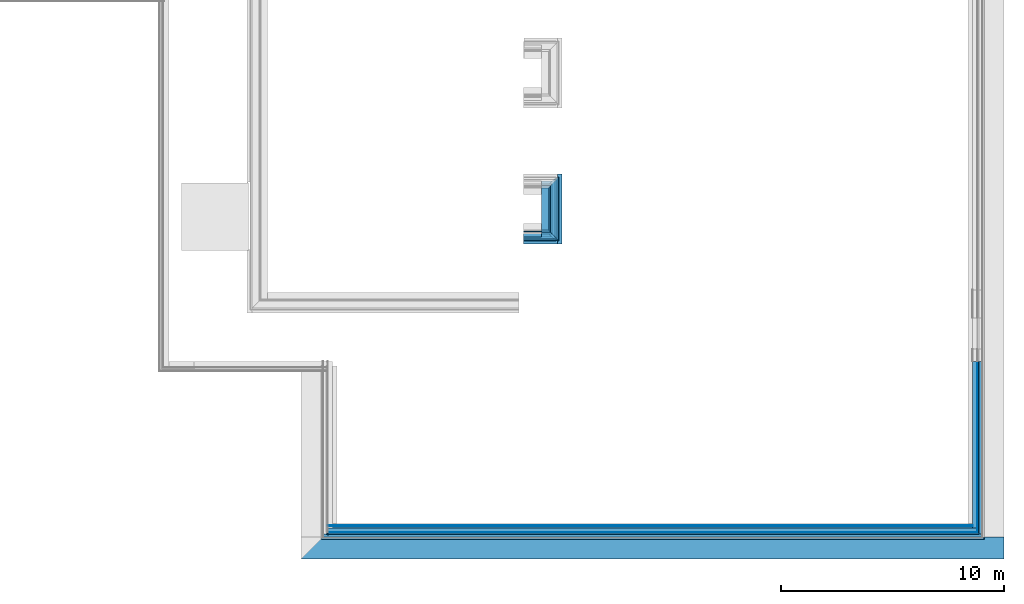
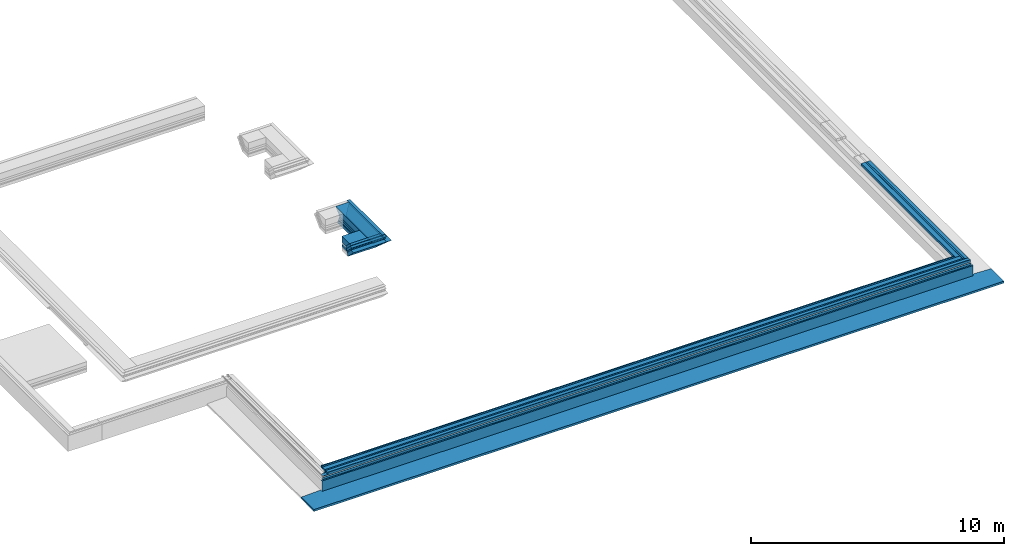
# One storey, part 9 of 17: 31 building element parts, 5 elements without a shape of their own.
"""IFC2X3 building model written with IfcOpenShell, lengths in millimetres."""

from ifc_helpers import new_model, entity, si_unit, converted_unit, derived_unit, money_unit, direction, frame, origin_with_axes, place, context, subcontext, project, spatial, faceted_brep, material, type_object, element, aggregate, save


model = new_model("IFC2X3")

# Units and contexts
model_context = context("Model", 3, precision=0.01, world=origin_with_axes(), true_north=direction((0.0, 1.0)))
body_context = subcontext(model_context, "Body", "Model", "MODEL_VIEW")
ifc_project = project(units=[si_unit("LENGTHUNIT", "METRE", prefix="MILLI"), si_unit("AREAUNIT", "SQUARE_METRE"), si_unit("VOLUMEUNIT", "CUBIC_METRE"), converted_unit("PLANEANGLEUNIT", "DEGREE", entity("IfcPlaneAngleMeasure", 0.0174532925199), si_unit("PLANEANGLEUNIT", "RADIAN"), dimensions=[0, 0, 0, 0, 0, 0, 0]), money_unit("EUR"), converted_unit("TIMEUNIT", "Year", entity("IfcTimeMeasure", 31556926.0), si_unit("TIMEUNIT", "SECOND"), dimensions=[0, 0, 1, 0, 0, 0, 0]), si_unit("MASSUNIT", "GRAM", prefix="KILO"), si_unit("THERMODYNAMICTEMPERATUREUNIT", "DEGREE_CELSIUS"), si_unit("LUMINOUSINTENSITYUNIT", "LUMEN"), si_unit("ENERGYUNIT", "JOULE", prefix="MEGA"), derived_unit("THERMALCONDUCTANCEUNIT", [(si_unit("POWERUNIT", "WATT"), 1), (si_unit("LENGTHUNIT", "METRE"), -1), (si_unit("THERMODYNAMICTEMPERATUREUNIT", "KELVIN"), -1)]), derived_unit("SPECIFICHEATCAPACITYUNIT", [(si_unit("ENERGYUNIT", "JOULE"), 1), (si_unit("MASSUNIT", "GRAM", prefix="KILO"), -1), (si_unit("THERMODYNAMICTEMPERATUREUNIT", "KELVIN"), -1)]), derived_unit("MASSDENSITYUNIT", [(si_unit("MASSUNIT", "GRAM", prefix="KILO"), 1), (si_unit("VOLUMEUNIT", "CUBIC_METRE"), -1)])], contexts=[model_context])

# Site, building, storey
site_placement = place(None, origin_with_axes())
site = spatial("IfcSite", under=ifc_project, at=site_placement, Name="Kolde pst 67a", CompositionType="ELEMENT")
building_placement = place(site_placement, origin_with_axes())
building = spatial("IfcBuilding", under=site, at=building_placement, Name="Riigigümnaasium", CompositionType="ELEMENT")
storey_placement = place(building_placement, frame((0.0, 0.0, -1500.0), z_axis=(0.0, 0.0, 1.0), x_axis=(1.0, 0.0, 0.0)))
storey = spatial("IfcBuildingStorey", under=building, at=storey_placement, Name="Vundament", CompositionType="ELEMENT", Elevation=-1500.0)

# Wall, building element parts
wall_type_1 = type_object("IfcWallType", Name="Lintvundament 1602 x 765", PredefinedType="NOTDEFINED")
wall_1_placement = place(storey_placement, frame((55370.0096858, 40.0, 1479.99999851), z_axis=(0.0, 0.0, 1.0), x_axis=(1.0, 0.0, 0.0)))
wall_1 = element("IfcWall", 1, at=wall_1_placement, inside=storey, type_object=wall_type_1, Name="Vundament")
ifc_material_1 = material(Name="_ALUSKATE - drenaaži- ja kaitsematt geotekstiiliga soojustuse kaitseks, Interplast Iso-Drain 8 Geo või samaväärne")
building_element_part_1_placement = place(wall_1_placement, origin_with_axes())
building_element_part_1 = element("IfcBuildingElementPart", 2, at=building_element_part_1_placement, material=ifc_material_1, Name="_ALUSKATE - drenaaži- ja kaitsematt geotekstiiliga soojustuse kaitseks, Interplast Iso-Drain 8 Geo või samaväärne", context=body_context, shape_type="Brep", body=[
    faceted_brep([(29314.9896366, -234.999993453, -29.9999875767), (29314.9896366, -234.999993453, -137.03058496), (29383.0470942, -234.999993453, -137.03058496), (29383.0470942, -234.999993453, -146.999992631), (-313.056572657, -234.999993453, -146.999992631), (-313.056572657, -234.999993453, -137.03058496), (-244.99911498, -234.999993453, -137.03058496), (-244.99911498, -234.999993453, -29.9999875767), (29314.9896366, -245.000004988, -29.9999875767), (29314.9896366, -245.000004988, -137.03058496), (29383.0470942, -245.000004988, -137.03058496), (29383.0470942, -313.057436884, -137.03058496), (29383.0470942, -313.057436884, -633.771442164), (29383.0470942, -303.057440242, -633.422236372), (29383.0470942, -303.057440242, -146.999992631), (-313.056317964, -303.057440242, -146.999992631), (-313.056317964, -303.057440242, -633.422236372), (-313.056280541, -313.057436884, -633.771442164), (-313.056280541, -313.057436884, -137.03058496), (-313.056535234, -245.000004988, -137.03058496), (-244.999077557, -245.000004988, -137.03058496), (-244.999077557, -245.000004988, -29.9999875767)], [[[0, 1, 2, 3, 4, 5, 6, 7]], [[1, 0, 8, 9]], [[2, 1, 9, 10]], [[3, 2, 10, 11, 12, 13, 14]], [[3, 14, 15, 4]], [[5, 4, 15, 16, 17, 18, 19]], [[6, 5, 19, 20]], [[21, 7, 6, 20]], [[8, 0, 7, 21]], [[9, 8, 21, 20]], [[10, 9, 20, 19, 18, 11]], [[12, 11, 18, 17]], [[13, 12, 17, 16]], [[14, 13, 16, 15]]]),
])
ifc_material_2 = material(Name="_SOOJUSTUS - vahtpolüstüreenplaadid EPS 120 Perimeeter, survetugevus min 120kPa, veeimavus <2%, soojuserijuhtivus λD<0,036 W/(mK)")
building_element_part_2_placement = place(wall_1_placement, origin_with_axes())
building_element_part_2 = element("IfcBuildingElementPart", 3, at=building_element_part_2_placement, material=ifc_material_2, Name="_SOOJUSTUS - vahtpolüstüreenplaadid EPS 120 Perimeeter, survetugevus min 120kPa, veeimavus <2%, soojuserijuhtivus λD<0,036 W/(mK)", context=body_context, shape_type="Brep", body=[
    faceted_brep([(29273.0470862, -203.057444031, -629.930162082), (29383.047079, -203.057444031, -633.771447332), (30272.4555193, -203.057444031, -664.830280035), (30270.1797387, -203.057444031, -729.999997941), (-1200.18935413, -203.057444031, -729.999997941), (-1202.46511722, -203.057444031, -664.830280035), (-313.056676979, -203.057444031, -633.771447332), (-203.056684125, -203.057444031, -629.930156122), (29383.047079, -313.057436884, -633.771447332), (30272.4555193, -1202.46588158, -664.830280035), (30268.9655633, -1198.97593138, -764.769370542), (-1198.97146109, -1198.97593138, -764.769370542), (-1202.46137711, -1202.46588158, -664.830280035), (-313.056265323, -313.057436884, -633.771447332)], [[[0, 1, 2, 3, 4, 5, 6, 7]], [[1, 0, 8, 9, 2]], [[3, 2, 9, 10]], [[3, 10, 11, 4]], [[4, 11, 12, 5]], [[12, 13, 7, 6, 5]], [[0, 7, 13, 8]], [[9, 8, 13, 12]], [[10, 9, 12, 11]]]),
])
aggregate(wall_1, [building_element_part_1, building_element_part_2])

wall_type_2 = type_object("IfcWallType", Name="garderoobi plaadipaksendus 916 x 700", PredefinedType="NOTDEFINED")
wall_2_placement = place(storey_placement, frame((65234.9968726, 13574.9916249, 1094.99999984), z_axis=(0.0, 0.0, 1.0), x_axis=(-3.007955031e-05, 0.999999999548, 0.0)))
wall_2 = element("IfcWall", 4, at=wall_2_placement, inside=storey, type_object=wall_type_2, Name="Vundament")
ifc_material_3 = material(Name="_KANDETARIND - monoliitne raudbetoon vastavalt EK osale")
building_element_part_3_placement = place(wall_2_placement, origin_with_axes())
building_element_part_3 = element("IfcBuildingElementPart", 5, at=building_element_part_3_placement, material=ifc_material_3, Name="_KANDETARIND - monoliitne raudbetoon vastavalt EK osale", context=body_context, shape_type="Brep", body=[
    faceted_brep([(-4.99867406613, 295.0, 5.0), (-304.898672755, 295.0, 304.899998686), (2194.89460842, 295.0, 304.899998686), (1894.99460973, 295.0, 5.0), (-4.99960871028, 86.6753466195, 4.99999671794), (-5.00002341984, -5.0, 4.99999868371), (-304.901373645, -304.899995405, 304.899998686), (2194.89194667, -304.899995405, 304.899998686), (1894.99327863, -5.00000000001, 5.0), (1894.99368211, 86.6753466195, 4.99999671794)], [[[0, 1, 2, 3]], [[1, 0, 4, 5, 6]], [[2, 1, 6, 7]], [[3, 2, 7, 8, 9]], [[0, 3, 9, 4]], [[9, 8, 5, 4]], [[6, 5, 8, 7]]]),
])
building_element_part_4_placement = place(wall_2_placement, origin_with_axes())
building_element_part_4 = element("IfcBuildingElementPart", 6, at=building_element_part_4_placement, material=ifc_material_2, Name="_SOOJUSTUS - vahtpolüstüreenplaadid EPS 120 Perimeeter, survetugevus min 120kPa, veeimavus <2%, soojuserijuhtivus λD<0,036 W/(mK)", context=body_context, shape_type="Brep", body=[
    faceted_brep([(-46.337510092, 294.993597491, -95.1407918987), (1936.3334457, 294.993597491, -95.1407918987), (1936.33193121, -46.3388376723, -95.1407918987), (-46.3390468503, -46.3388376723, -95.1407918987), (-4.95790164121, 294.997848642, 4.95922662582), (86.6730701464, 294.997850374, 4.99999671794), (1803.3228655, 294.997850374, 4.99999671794), (1894.95383729, 294.997848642, 4.95922662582), (1894.95250735, -4.95922611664, 4.95922427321), (-4.95925309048, -4.95922611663, 4.95922427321), (86.675730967, 86.6753466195, 4.99999751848), (1803.31834244, 86.6753466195, 4.99999751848)], [[[0, 1, 2, 3]], [[4, 5, 6, 7, 1, 0]], [[1, 7, 8, 2]], [[9, 3, 2, 8]], [[4, 0, 3, 9]], [[5, 4, 9, 10]], [[6, 5, 10, 11]], [[7, 6, 11, 8]], [[11, 10, 9, 8]]]),
])
building_element_part_5_placement = place(wall_2_placement, origin_with_axes())
building_element_part_5 = element("IfcBuildingElementPart", 7, at=building_element_part_5_placement, material=ifc_material_2, Name="_SOOJUSTUS - vahtpolüstüreenplaadid EPS 120 Perimeeter, survetugevus min 120kPa, veeimavus <2%, soojuserijuhtivus λD<0,036 W/(mK)", context=body_context, shape_type="Brep", body=[
    faceted_brep([(-87.767841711, -87.7674414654, -195.199618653), (-87.7849129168, -87.7674389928, -195.199612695), (-87.8019648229, -87.7845121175, -195.24078994), (1977.79447869, -87.7845121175, -195.24078994), (1977.77742694, -87.7674396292, -195.199612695), (1977.76035573, -87.7674414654, -195.199618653), (1936.3150868, -46.3219876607, -95.240790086), (-46.3222022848, -46.3219876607, -95.240790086), (-87.7661184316, 294.993583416, -195.199618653), (-87.7831896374, 294.993583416, -195.199612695), (-87.8002414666, 294.993583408, -195.24078994), (1977.79617707, 294.993583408, -195.24078994), (1977.77912524, 294.993583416, -195.199612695), (1977.76205404, 294.993583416, -195.199618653), (1936.31660121, 294.993602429, -95.240790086), (-46.3206656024, 294.993602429, -95.240790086)], [[[0, 1, 2, 3, 4, 5, 6, 7]], [[1, 0, 8, 9]], [[1, 9, 10, 2]], [[2, 10, 11, 3]], [[12, 4, 3, 11]], [[5, 4, 12, 13]], [[6, 5, 13, 14]], [[15, 7, 6, 14]], [[0, 7, 15, 8]], [[8, 15, 14, 13, 12, 11, 10, 9]]]),
])
ifc_material_4 = material(Name="_TÄIDE - tasandus-/tugevduskiht, pinnasesse tambitud killustik E=80MPa, kiilutud fr 4/16")
building_element_part_6_placement = place(wall_2_placement, origin_with_axes())
building_element_part_6 = element("IfcBuildingElementPart", 8, at=building_element_part_6_placement, material=ifc_material_4, Name="_TÄIDE - tasandus-/tugevduskiht, pinnasesse tambitud killustik E=80MPa, kiilutud fr 4/16", context=body_context, shape_type="Brep", body=[
    faceted_brep([(-108.493863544, 294.993573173, -245.199616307), (-87.7831906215, 294.993584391, -195.240793), (1977.77912623, 294.993584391, -195.240793), (1998.48979915, 294.993573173, -245.199616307), (1998.50672771, 294.993573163, -245.240786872), (-108.510792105, 294.993573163, -245.240786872), (-108.495680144, -108.495190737, -245.199616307), (-87.7849139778, -87.7845113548, -195.240793), (1977.77742785, -87.7845113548, -195.240793), (1998.48800888, -108.495190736, -245.199616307), (1998.50493736, -108.512245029, -245.240786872), (-108.512608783, -108.512245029, -245.240786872)], [[[0, 1, 2, 3, 4, 5]], [[1, 0, 6, 7]], [[2, 1, 7, 8]], [[3, 2, 8, 9]], [[4, 3, 9, 10]], [[5, 4, 10, 11]], [[0, 5, 11, 6]], [[7, 6, 9, 8]], [[10, 9, 6, 11]]]),
])
ifc_material_5 = material(Name="_TÄIDE - tasandus-/tugevduskiht, pinnasesse tambitud killustik E=80MPa, fr 16/32")
building_element_part_7_placement = place(wall_2_placement, origin_with_axes())
building_element_part_7 = element("IfcBuildingElementPart", 9, at=building_element_part_7_placement, material=ifc_material_5, Name="_TÄIDE - tasandus-/tugevduskiht, pinnasesse tambitud killustik E=80MPa, fr 16/32", context=body_context, shape_type="Brep", body=[
    faceted_brep([(-108.512608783, -108.512240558, -245.240786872), (-170.190060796, -170.189294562, -395.24078013), (2060.18183803, -170.189294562, -395.24078013), (1998.50493736, -108.512240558, -245.240786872), (-170.187966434, 294.99354324, -395.24078013), (-108.510792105, 294.993570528, -245.240786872), (2060.18390204, 294.99354324, -395.24078013), (1998.50672771, 294.993570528, -245.240786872)], [[[0, 1, 2, 3]], [[4, 1, 0, 5]], [[1, 4, 6, 2]], [[3, 2, 6, 7]], [[5, 0, 3, 7]], [[4, 5, 7, 6]]]),
])
building_element_part_8_placement = place(wall_2_placement, origin_with_axes())
building_element_part_8 = element("IfcBuildingElementPart", 10, at=building_element_part_8_placement, material=ifc_material_2, Name="_SOOJUSTUS - vahtpolüstüreenplaadid EPS 120 Perimeeter, survetugevus min 120kPa, veeimavus <2%, soojuserijuhtivus λD<0,036 W/(mK)", context=body_context, shape_type="Brep", body=[
    faceted_brep([(-46.4221912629, -46.3388376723, -95.1407918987), (-146.481335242, -4.95923544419, 4.95923015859), (2036.47458385, -4.9592297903, 4.95922450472), (1936.41507562, -46.3388376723, -95.1407918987), (-46.4221916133, -46.4166713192, -95.1407918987), (-146.481972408, -146.481318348, 4.95923015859), (-146.522088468, -5.00000235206, 4.99999706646), (2036.51534239, -5.00000235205, 4.99999706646), (1936.41507528, -46.4166713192, -95.1407918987), (2036.47396157, -146.481318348, 4.95923015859), (-46.367110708, -46.3616066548, -95.1958725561), (1936.35999486, -46.3616066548, -95.1958725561), (2336.30739915, -446.316090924, 304.90000478), (-446.318090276, -446.316090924, 304.90000478), (-446.317453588, -304.900000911, 304.90000478), (-346.252395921, -204.800010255, 204.800004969), (2336.30802661, -304.900000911, 304.90000478), (2236.24386376, -204.800010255, 204.800004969)], [[[0, 1, 2, 3]], [[1, 0, 4, 5]], [[1, 6, 7, 2]], [[8, 3, 2, 9]], [[10, 0, 3, 11]], [[0, 10, 4]], [[11, 8, 9, 12, 13, 5, 4, 10]], [[6, 1, 5, 13, 14, 15]], [[7, 6, 15, 14, 16, 17]], [[2, 7, 17, 16, 12, 9]], [[8, 11, 3]], [[14, 13, 12, 16]]]),
])
building_element_part_9_placement = place(wall_2_placement, origin_with_axes())
building_element_part_9 = element("IfcBuildingElementPart", 11, at=building_element_part_9_placement, material=ifc_material_2, Name="_SOOJUSTUS - vahtpolüstüreenplaadid EPS 120 Perimeeter, survetugevus min 120kPa, veeimavus <2%, soojuserijuhtivus λD<0,036 W/(mK)", context=body_context, shape_type="Brep", body=[
    faceted_brep([(-87.7849100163, -87.7845108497, -195.199618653), (-187.78471781, -46.3631558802, -95.1996217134), (2077.77760194, -46.3631558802, -95.1996217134), (1977.77742388, -87.7845108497, -195.199618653), (-387.785885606, -387.784135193, 104.799999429), (-487.78634137, -487.784133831, 204.800004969), (-487.785704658, -346.362777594, 204.800004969), (2377.77590704, -346.362777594, 204.800004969), (2377.77527955, -487.784133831, 204.800004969), (2277.77571771, -387.784135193, 104.799999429)], [[[0, 1, 2, 3]], [[1, 0, 4, 5, 6]], [[1, 6, 7, 2]], [[3, 2, 7, 8, 9]], [[0, 3, 9, 4]], [[5, 4, 9, 8]], [[6, 5, 8, 7]]]),
])
building_element_part_10_placement = place(wall_2_placement, origin_with_axes())
building_element_part_10 = element("IfcBuildingElementPart", 12, at=building_element_part_10_placement, material=ifc_material_4, Name="_TÄIDE - tasandus-/tugevduskiht, pinnasesse tambitud killustik E=80MPa, kiilutud fr 4/16", context=body_context, shape_type="Brep", body=[
    faceted_brep([(-87.7849130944, -87.8015686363, -195.240790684), (-87.8019690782, -87.8015683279, -195.24078994), (-108.495680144, -108.495186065, -245.199618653), (-158.495584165, -87.7845147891, -195.199619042), (2048.48809815, -87.7845147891, -195.199619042), (1998.48800875, -108.495183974, -245.199613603), (1977.79448279, -87.8015683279, -195.24078994), (1977.77742681, -87.8015686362, -195.240790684), (1998.48800875, -108.495183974, -245.199613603), (-108.495680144, -108.495186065, -245.199618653), (-87.7852311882, -158.454017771, -195.240790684), (-87.8022871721, -158.454018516, -195.24078994), (-408.496645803, -408.494810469, 54.8000049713), (-458.496865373, -458.494810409, 104.799999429), (-458.496547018, -387.784135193, 104.799999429), (2348.48637912, -387.784135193, 104.799999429), (2348.48606538, -458.494810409, 104.799999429), (2298.48629277, -408.494810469, 54.8000049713), (1977.79416931, -158.454018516, -195.24078994), (1977.77711333, -158.454017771, -195.240790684)], [[[0, 1, 2, 3, 4, 5, 6, 7, 8, 9]], [[1, 0, 10, 11]], [[2, 1, 11]], [[3, 2, 12, 13, 14]], [[4, 3, 14, 15]], [[5, 4, 15, 16, 17]], [[6, 5, 18]], [[7, 6, 18, 19]], [[8, 7, 19]], [[9, 8, 19, 18, 5, 17, 12, 2, 11, 10]], [[0, 9, 10]], [[13, 12, 17, 16]], [[14, 13, 16, 15]]]),
])
building_element_part_11_placement = place(wall_2_placement, origin_with_axes())
building_element_part_11 = element("IfcBuildingElementPart", 13, at=building_element_part_11_placement, material=ifc_material_5, Name="_TÄIDE - tasandus-/tugevduskiht, pinnasesse tambitud killustik E=80MPa, fr 16/32", context=body_context, shape_type="Brep", body=[
    faceted_brep([(-620.628679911, -408.494810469, 54.8000049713), (-620.629634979, -620.626846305, 54.8000049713), (2510.61738565, -620.626846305, 54.8000049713), (2510.61832688, -408.494810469, 54.8000049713), (-170.305664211, -170.304905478, -395.521938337), (-320.6277049, -108.495191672, -245.199619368), (-170.586818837, -170.189294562, -395.24078319), (2060.29744041, -170.304905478, -395.521938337), (2060.57859607, -170.189294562, -395.24078319), (2210.62003363, -108.495191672, -245.199619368)], [[[0, 1, 2, 3]], [[4, 1, 0, 5, 6]], [[1, 4, 7, 2]], [[3, 2, 7, 8, 9]], [[5, 0, 3, 9]], [[6, 5, 9, 8]], [[4, 6, 8, 7]]]),
])
aggregate(wall_2, [building_element_part_3, building_element_part_4, building_element_part_5, building_element_part_6, building_element_part_7, building_element_part_8, building_element_part_9, building_element_part_10, building_element_part_11])

wall_3_placement = place(storey_placement, frame((64129.5377822, 13574.9633502, 1095.0000029), z_axis=(0.0, 0.0, 1.0), x_axis=(0.999999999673, 2.55773169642e-05, 0.0)))
wall_3 = element("IfcWall", 14, at=wall_3_placement, inside=storey, type_object=wall_type_2, Name="Vundament")
building_element_part_12_placement = place(wall_3_placement, origin_with_axes())
building_element_part_12 = element("IfcBuildingElementPart", 15, at=building_element_part_12_placement, material=ifc_material_3, Name="_KANDETARIND - monoliitne raudbetoon vastavalt EK osale", context=body_context, shape_type="Brep", body=[
    faceted_brep([(0.0, -304.9, 304.9), (0.0, -5.0, 5.0), (810.459113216, -5.0, 5.0), (810.460463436, -304.899997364, 304.899996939), (0.0, 86.6753466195, 4.99999671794), (0.0, 295.0, 304.9), (0.0, 295.0, 5.0), (810.458700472, 86.6753466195, 4.99999671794), (810.457762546, 295.0, 5.0), (810.457762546, 295.0, 304.899996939)], [[[0, 1, 2, 3]], [[4, 1, 0, 5, 6]], [[1, 4, 7, 2]], [[2, 7, 8, 9, 3]], [[5, 0, 3, 9]], [[6, 5, 9, 8]], [[4, 6, 8, 7]]]),
])
building_element_part_13_placement = place(wall_3_placement, origin_with_axes())
building_element_part_13 = element("IfcBuildingElementPart", 16, at=building_element_part_13_placement, material=ifc_material_2, Name="_SOOJUSTUS - vahtpolüstüreenplaadid EPS 120 Perimeeter, survetugevus min 120kPa, veeimavus <2%, soojuserijuhtivus λD<0,036 W/(mK)", context=body_context, shape_type="Brep", body=[
    faceted_brep([(1193.24228035, 294.993583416, -195.199618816), (1193.24400362, -87.7674396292, -195.199618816), (1193.26105553, -87.7845121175, -195.240796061), (1193.25933217, 294.993583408, -195.240796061), (1193.22693242, -87.7674440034, -195.199624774), (1193.22520914, 294.993583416, -195.199624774), (1193.24399805, -87.7845121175, -195.240792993), (1193.2422747, 294.993583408, -195.240792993)], [[[0, 1, 2, 3]], [[4, 1, 0, 5]], [[1, 4, 6, 2]], [[6, 7, 3, 2]], [[5, 0, 3, 7]], [[7, 6, 4, 5]]]),
    faceted_brep([(810.465696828, -46.3219876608, -95.2407929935), (0.0, -46.3219876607, -95.2407899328), (0.0, -87.7845121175, -195.240789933), (810.465902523, -87.7845121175, -195.240792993), (810.464160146, 294.993602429, -95.2407929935), (0.0, 294.993602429, -95.2407899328), (0.0, 294.993583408, -195.240789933), (810.464179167, 294.993583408, -195.240792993)], [[[0, 1, 2, 3]], [[0, 4, 5, 1]], [[2, 1, 5, 6]], [[6, 7, 3, 2]], [[4, 0, 3, 7]], [[4, 7, 6, 5]]]),
])
building_element_part_14_placement = place(wall_3_placement, origin_with_axes())
building_element_part_14 = element("IfcBuildingElementPart", 17, at=building_element_part_14_placement, material=ifc_material_2, Name="_SOOJUSTUS - vahtpolüstüreenplaadid EPS 120 Perimeeter, survetugevus min 120kPa, veeimavus <2%, soojuserijuhtivus λD<0,036 W/(mK)", context=body_context, shape_type="Brep", body=[
    faceted_brep([(1110.41898011, -146.481307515, 4.95922050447), (1151.79813862, -46.416662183, -95.1407980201), (1151.79813827, -46.3388402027, -95.1407980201), (1110.41834293, -4.95923144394, 4.95922050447), (0.0, -446.316090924, 304.899995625), (0.0, -46.3616066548, -95.1958725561), (1151.82620754, -46.3616066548, -95.1958725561), (1110.45975274, -146.522066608, 4.99999400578), (1410.36110104, -446.316086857, 304.899992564), (0.0, -46.3388389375, -95.1407949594), (0.0, -4.95922979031, 4.95922450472), (1110.45911557, -4.99999929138, 4.99999400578), (0.0, -304.900000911, 304.899995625), (0.0, -5.00000235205, 4.99999706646), (1410.36046435, -304.899996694, 304.899992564)], [[[0, 1, 2, 3]], [[4, 5, 6, 1, 0, 7, 8]], [[1, 6, 2]], [[9, 10, 3, 2]], [[7, 0, 3, 11]], [[5, 4, 12, 13, 10, 9]], [[5, 9, 2, 6]], [[8, 7, 11, 14]], [[12, 4, 8, 14]], [[10, 13, 11, 3]], [[13, 12, 14, 11]]]),
])
building_element_part_15_placement = place(wall_3_placement, origin_with_axes())
building_element_part_15 = element("IfcBuildingElementPart", 18, at=building_element_part_15_placement, material=ifc_material_2, Name="_SOOJUSTUS - vahtpolüstüreenplaadid EPS 120 Perimeeter, survetugevus min 120kPa, veeimavus <2%, soojuserijuhtivus λD<0,036 W/(mK)", context=body_context, shape_type="Brep", body=[
    faceted_brep([(0.0, -387.784135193, 104.800001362), (0.0, -487.784133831, 204.8), (0.0, -346.362777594, 204.8), (0.0, -46.3631558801, -95.1996217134), (0.0, -87.7845121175, -195.199621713), (1351.82361488, -387.784135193, 104.799997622), (1451.82406442, -487.784133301, 204.799996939), (1451.82342771, -346.362774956, 204.799996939), (1151.82245533, -46.3631571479, -95.1996247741), (1193.24399679, -87.7845121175, -195.199621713), (1151.82309204, -187.784510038, -95.1996247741)], [[[0, 1, 2, 3, 4]], [[1, 0, 5, 6]], [[2, 1, 6, 7]], [[3, 2, 7, 8]], [[4, 3, 8, 9]], [[0, 4, 9, 10, 5]], [[5, 10, 8, 7, 6]], [[9, 8, 10]]]),
])
building_element_part_16_placement = place(wall_3_placement, origin_with_axes())
building_element_part_16 = element("IfcBuildingElementPart", 19, at=building_element_part_16_placement, material=ifc_material_4, Name="_TÄIDE - tasandus-/tugevduskiht, pinnasesse tambitud killustik E=80MPa, kiilutud fr 4/16", context=body_context, shape_type="Brep", body=[
    faceted_brep([(0.0, -408.494810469, 54.799999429), (0.0, -108.495187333, -245.199621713), (1213.95477072, -108.495186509, -245.199619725), (1193.2443219, -158.454012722, -195.240796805), (1193.26137788, -158.454013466, -195.240796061), (1193.24431908, -158.495187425, -195.199622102), (1443.24506311, -408.494807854, 54.7999963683), (0.0, -458.494810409, 104.800001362), (0.0, -387.784135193, 104.800001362), (0.0, -87.7845147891, -195.199619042), (1193.24400072, -87.7845160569, -195.199622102), (1193.26105979, -87.8015708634, -195.240796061), (1193.2440038, -87.8015711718, -195.240796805), (1493.2449718, -387.784135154, 104.799998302), (1493.24528553, -458.494810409, 104.799993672)], [[[0, 1, 2, 3, 4, 5, 6]], [[0, 7, 8, 9, 1]], [[1, 9, 10, 11, 12, 2]], [[3, 2, 12]], [[4, 3, 12, 11]], [[10, 5, 4, 11]], [[5, 10, 13, 14, 6]], [[7, 0, 6, 14]], [[8, 7, 14, 13]], [[9, 8, 13, 10]]]),
])
building_element_part_17_placement = place(wall_3_placement, origin_with_axes())
building_element_part_17 = element("IfcBuildingElementPart", 20, at=building_element_part_17_placement, material=ifc_material_5, Name="_TÄIDE - tasandus-/tugevduskiht, pinnasesse tambitud killustik E=80MPa, fr 16/32", context=body_context, shape_type="Brep", body=[
    faceted_brep([(0.0, -620.626846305, 54.799999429), (0.0, -170.304905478, -395.521941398), (1275.76475492, -170.304905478, -395.521944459), (1275.64915329, -170.586062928, -395.240786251), (1213.95572592, -320.627226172, -245.199622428), (1513.95669539, -620.626844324, 54.7999963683), (0.0, -408.494810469, 54.799999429), (0.0, -108.495191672, -245.199619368), (0.0, -170.189294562, -395.24078319), (1275.6491515, -170.189295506, -395.240786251), (1213.95477085, -108.495192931, -245.199622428), (1513.95574032, -408.494807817, 54.7999963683)], [[[0, 1, 2, 3, 4, 5]], [[1, 0, 6, 7, 8]], [[1, 8, 9, 2]], [[3, 2, 9]], [[10, 4, 3, 9]], [[4, 10, 11, 5]], [[6, 0, 5, 11]], [[7, 6, 11, 10]], [[8, 7, 10, 9]]]),
])
aggregate(wall_3, [building_element_part_12, building_element_part_13, building_element_part_14, building_element_part_15, building_element_part_16, building_element_part_17])

wall_type_3 = type_object("IfcWallType", Name="VS-CLT-20/4_sokkel A plokk 563", PredefinedType="NOTDEFINED")
wall_4_placement = place(storey_placement, frame((55370.0097058, 40.0, 1480.0000006), z_axis=(0.0, 0.0, 1.0), x_axis=(1.0, 0.0, 0.0)))
wall_4 = element("IfcWall", 21, at=wall_4_placement, inside=storey, type_object=wall_type_3, Name="Sokkel")
ifc_material_6 = material(Name="_VIIMISTLUSKIHT - Dold plaat vastavalt SA osale")
building_element_part_18_placement = place(wall_4_placement, origin_with_axes())
building_element_part_18 = element("IfcBuildingElementPart", 22, at=building_element_part_18_placement, material=ifc_material_6, Name="_VIIMISTLUSKIHT - Dold plaat vastavalt SA osale", context=body_context, shape_type="Brep", body=[
    faceted_brep([(28869.9896221, 309.999999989, 19.9999994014), (28869.9896221, 330.0, 19.9999994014), (28869.9896221, 330.0, 120.000001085), (28869.9896221, 309.999999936, 120.000001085), (226.23724103, 330.0, 19.9999994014), (226.237238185, 309.999996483, 19.9999994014), (226.23724103, 330.0, 0.0), (199.998731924, 330.0, 0.0), (199.998731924, 330.0, 19.9999994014), (-0.00126807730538, 329.999999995, 19.9999994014), (0.0, 330.0, 120.000000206), (0.0, 309.999996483, 120.000000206), (-0.00119122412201, 309.999996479, 19.9999994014), (199.998808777, 309.999996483, 19.9999994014), (199.998808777, 310.0, 0.0), (226.237238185, 310.0, 0.0)], [[[0, 1, 2, 3]], [[4, 1, 0, 5]], [[4, 6, 7, 8, 9, 10, 2, 1]], [[10, 11, 3, 2]], [[5, 0, 3, 11, 12, 13, 14, 15]], [[6, 4, 5, 15]], [[6, 15, 14, 7]], [[13, 8, 7, 14]], [[12, 9, 8, 13]], [[10, 9, 12, 11]]]),
])
ifc_material_7 = material(Name="_KARKASS - eriprofiilkinnitus vastavalt sisemisele plaatviimistlusele")
building_element_part_19_placement = place(wall_4_placement, origin_with_axes())
building_element_part_19 = element("IfcBuildingElementPart", 23, at=building_element_part_19_placement, material=ifc_material_7, Name="_KARKASS - eriprofiilkinnitus vastavalt sisemisele plaatviimistlusele", context=body_context, shape_type="Brep", body=[
    faceted_brep([(28869.9896221, 300.000000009, 19.9999994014), (28869.9896221, 309.999999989, 19.9999994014), (28869.9896221, 309.999999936, 120.000001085), (28869.9896221, 300.000000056, 120.000001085), (226.237238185, 309.999996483, 19.9999994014), (226.237236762, 300.000003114, 19.9999994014), (226.237238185, 310.0, 0.0), (199.998808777, 310.0, 0.0), (199.998808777, 309.999996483, 19.9999994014), (-0.00119122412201, 309.999996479, 19.9999994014), (0.0, 309.999996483, 120.000000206), (0.0, 300.000003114, 120.000000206), (-0.00115279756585, 300.00000311, 19.9999994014), (199.998847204, 300.000003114, 19.9999994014), (199.998847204, 300.0, 0.0), (226.237236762, 300.0, 0.0)], [[[0, 1, 2, 3]], [[4, 1, 0, 5]], [[4, 6, 7, 8, 9, 10, 2, 1]], [[3, 2, 10, 11]], [[5, 0, 3, 11, 12, 13, 14, 15]], [[6, 4, 5, 15]], [[6, 15, 14, 7]], [[13, 8, 7, 14]], [[12, 9, 8, 13]], [[10, 9, 12, 11]]]),
])
ifc_material_8 = material(Name="_PLAATMATERJAL - erikõva kipsplaat, kinnitamiseks kasutada erikõvale plaadile sobivaid kruve nt XTB 3,9x55mm, Knauf Blue (Diamant) või samaväärne")
building_element_part_20_placement = place(wall_4_placement, origin_with_axes())
building_element_part_20 = element("IfcBuildingElementPart", 24, at=building_element_part_20_placement, material=ifc_material_8, Name="_PLAATMATERJAL - erikõva kipsplaat, kinnitamiseks kasutada erikõvale plaadile sobivaid kruve nt XTB 3,9x55mm, Knauf Blue (Diamant) või samaväärne", context=body_context, shape_type="Brep", body=[
    faceted_brep([(28869.9896221, 287.5, 19.9999994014), (28869.9896221, 300.000000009, 19.9999994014), (28869.9896221, 300.000000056, 120.000001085), (28869.9896221, 287.5, 120.000001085), (226.237236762, 300.000003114, 19.9999994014), (226.237234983, 287.5, 19.9999994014), (226.237236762, 300.0, 0.0), (199.998847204, 300.0, 0.0), (199.998847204, 300.000003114, 19.9999994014), (-0.00115279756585, 300.00000311, 19.9999994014), (0.0, 300.000003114, 120.000000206), (0.0, 287.5, 120.000000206), (-0.00110476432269, 287.499999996, 19.9999994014), (199.998895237, 287.5, 19.9999994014), (199.998895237, 287.5, 0.0), (226.237234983, 287.5, 0.0)], [[[0, 1, 2, 3]], [[4, 1, 0, 5]], [[4, 6, 7, 8, 9, 10, 2, 1]], [[10, 11, 3, 2]], [[5, 0, 3, 11, 12, 13, 14, 15]], [[6, 4, 5, 15]], [[6, 15, 14, 7]], [[13, 8, 7, 14]], [[12, 9, 8, 13]], [[10, 9, 12, 11]]]),
])
building_element_part_21_placement = place(wall_4_placement, origin_with_axes())
building_element_part_21 = element("IfcBuildingElementPart", 25, at=building_element_part_21_placement, material=ifc_material_8, Name="_PLAATMATERJAL - erikõva kipsplaat, kinnitamiseks kasutada erikõvale plaadile sobivaid kruve nt XTB 3,9x55mm, Knauf Blue (Diamant) või samaväärne", context=body_context, shape_type="Brep", body=[
    faceted_brep([(28869.9896221, 274.999999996, 19.9999994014), (28869.9896221, 287.5, 19.9999994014), (28869.9896221, 287.5, 120.000001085), (28869.9896221, 274.999999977, 120.000001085), (226.237234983, 287.5, 19.9999994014), (226.237233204, 274.999998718, 19.9999994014), (226.237234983, 287.5, 0.0), (199.998895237, 287.5, 0.0), (199.998895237, 287.5, 19.9999994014), (-0.00110476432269, 287.499999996, 19.9999994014), (0.0, 287.5, 120.000000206), (0.0, 274.999998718, 120.000000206), (-0.00105673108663, 274.999998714, 19.9999994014), (199.99894327, 274.999998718, 19.9999994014), (199.99894327, 275.0, 0.0), (226.237233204, 275.0, 0.0)], [[[0, 1, 2, 3]], [[4, 1, 0, 5]], [[4, 6, 7, 8, 9, 10, 2, 1]], [[10, 11, 3, 2]], [[5, 0, 3, 11, 12, 13, 14, 15]], [[6, 4, 5, 15]], [[6, 15, 14, 7]], [[13, 8, 7, 14]], [[12, 9, 8, 13]], [[10, 9, 12, 11]]]),
])
ifc_material_9 = material(Name="_KARKASS - metallkarkass CW 50/50/06 ja UW 75/40/06, samm 600, 50x50mm postid eraldiseisvalt vaheldumisi, kogupaksus 75mm, vahel mineraalvill, helineeldetegur αw = 0.85, ISOVER ACOUSTIC 50mm või samaväärne")
building_element_part_22_placement = place(wall_4_placement, origin_with_axes())
building_element_part_22 = element("IfcBuildingElementPart", 26, at=building_element_part_22_placement, material=ifc_material_9, Name="_KARKASS - metallkarkass CW 50/50/06 ja UW 75/40/06, samm 600, 50x50mm postid eraldiseisvalt vaheldumisi, kogupaksus 75mm, vahel mineraalvill, helineeldetegur αw = 0.85, ISOVER ACOUSTIC 50mm või samaväärne", context=body_context, shape_type="Brep", body=[
    faceted_brep([(28869.9896221, 200.0, 19.9999994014), (28869.9896221, 274.999999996, 19.9999994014), (28869.9896221, 274.999999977, 120.000001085), (28869.9896221, 200.000000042, 120.000001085), (226.237233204, 274.999998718, 19.9999994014), (226.237222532, 200.0, 19.9999994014), (226.237233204, 275.0, 0.0), (199.99894327, 275.0, 0.0), (199.99894327, 274.999998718, 19.9999994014), (-0.00105673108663, 274.999998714, 19.9999994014), (0.0, 274.999998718, 120.000000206), (0.0, 200.00000231, 120.000000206), (-0.000768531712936, 200.000002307, 19.9999994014), (199.99923147, 200.00000231, 19.9999994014), (199.99923147, 200.0, 0.0), (226.237222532, 200.0, 0.0)], [[[0, 1, 2, 3]], [[4, 1, 0, 5]], [[4, 6, 7, 8, 9, 10, 2, 1]], [[10, 11, 3, 2]], [[5, 0, 3, 11, 12, 13, 14, 15]], [[6, 4, 5, 15]], [[6, 15, 14, 7]], [[13, 8, 7, 14]], [[12, 9, 8, 13]], [[10, 9, 12, 11]]]),
])
ifc_material_10 = material(Name="_KANDETARIND - CLT ristkihtliimpuit vastavalt EK osale, CLT paigaldusvuugid teibitakse ROTHOBLAAS teibiga")
building_element_part_23_placement = place(wall_4_placement, origin_with_axes())
building_element_part_23 = element("IfcBuildingElementPart", 27, at=building_element_part_23_placement, material=ifc_material_10, Name="_KANDETARIND - CLT ristkihtliimpuit vastavalt EK osale, CLT paigaldusvuugid teibitakse ROTHOBLAAS teibiga", context=body_context, shape_type="Brep", body=[
    faceted_brep([(29069.9896221, 200.0, 0.0), (-0.000768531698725, 200.0, 0.0), (0.0, 200.00000231, 120.000000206), (29069.9896221, 200.000000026, 120.000001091), (29069.9896221, 0.0, 0.0), (0.0, 0.0, 0.0), (0.0, 7.00357084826e-07, 120.000000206), (29069.9896221, 7.93674154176e-09, 120.000001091)], [[[0, 1, 2, 3]], [[4, 5, 1, 0]], [[2, 1, 5, 6]], [[7, 3, 2, 6]], [[4, 0, 3, 7]], [[6, 5, 4, 7]]]),
])
ifc_material_11 = material(Name="_HÜDROISOLATSIOON - 3x SBS rullmaterjal vastavalt TL2 nõuetele, nakke tugevduseks betoonpind eelnevalt katta hüdroisolatsiooni bituumenvõõbaga")
building_element_part_24_placement = place(wall_4_placement, origin_with_axes())
building_element_part_24 = element("IfcBuildingElementPart", 28, at=building_element_part_24_placement, material=ifc_material_11, Name="_HÜDROISOLATSIOON - 3x SBS rullmaterjal vastavalt TL2 nõuetele, nakke tugevduseks betoonpind eelnevalt katta hüdroisolatsiooni bituumenvõõbaga", context=body_context, shape_type="Brep", body=[
    faceted_brep([(-3.00000000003, 0.0, 0.0), (-3.00000000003, 7.00355308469e-07, 19.9999994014), (0.0, 7.00355308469e-07, 19.9999994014), (0.0, 7.00355308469e-07, 120.000000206), (29072.9896221, 7.86568726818e-09, 120.000001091), (29072.9896221, 0.0, 0.0), (-2.99998847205, -3.00000150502, 19.9999994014), (-2.99998847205, -3.0, 0.0), (0.0, -3.00000150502, 19.9999994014), (0.0, -3.00000150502, 120.000000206), (29072.9896221, -3.00000001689, 120.000001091), (29072.9896221, -2.99999999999, 0.0)], [[[0, 1, 2, 3, 4, 5]], [[6, 1, 0, 7]], [[1, 6, 8, 2]], [[8, 9, 3, 2]], [[4, 3, 9, 10]], [[5, 4, 10, 11]], [[7, 0, 5, 11]], [[6, 7, 11, 10, 9, 8]]]),
])
ifc_material_12 = material(Name="_SOOJUSTUS - ekstrudeeritud polüstüreenist plaadid XPS 250, survetugevus min 250kPa, soojuserijuhtivus λD<0,036 W/(mK), veeimavus alla 0,2%, näiteks XPS 250 foam SL või samaväärne")
building_element_part_25_placement = place(wall_4_placement, origin_with_axes())
building_element_part_25 = element("IfcBuildingElementPart", 29, at=building_element_part_25_placement, material=ifc_material_12, Name="_SOOJUSTUS - ekstrudeeritud polüstüreenist plaadid XPS 250, survetugevus min 250kPa, soojuserijuhtivus λD<0,036 W/(mK), veeimavus alla 0,2%, näiteks XPS 250 foam SL või samaväärne", context=body_context, shape_type="Brep", body=[
    faceted_brep([(-72.9999884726, -3.0, 0.0), (-72.9999884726, -3.00000150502, 19.9999994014), (0.0, -3.00000150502, 19.9999994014), (0.0, -3.00000150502, 120.000000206), (29142.9896221, -3.0000000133, 120.000001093), (29142.9896221, -2.99999999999, 0.0), (-72.9997194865, -73.0, 19.9999994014), (-72.9997194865, -73.0, 0.0), (0.0, -73.0, 19.9999994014), (0.0, -73.0, 120.000000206), (29142.9896221, -73.0, 120.000001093), (29142.9896221, -73.0, 0.0)], [[[0, 1, 2, 3, 4, 5]], [[6, 1, 0, 7]], [[1, 6, 8, 2]], [[8, 9, 3, 2]], [[4, 3, 9, 10]], [[5, 4, 10, 11]], [[7, 0, 5, 11]], [[6, 7, 11, 10, 9, 8]]]),
])
building_element_part_26_placement = place(wall_4_placement, origin_with_axes())
building_element_part_26 = element("IfcBuildingElementPart", 30, at=building_element_part_26_placement, material=ifc_material_2, Name="_SOOJUSTUS - vahtpolüstüreenplaadid EPS 120 Perimeeter, survetugevus min 120kPa, veeimavus <2%, soojuserijuhtivus λD<0,036 W/(mK)", context=body_context, shape_type="Brep", body=[
    faceted_brep([(-222.999719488, -73.0, 0.0), (-222.999719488, -73.0, 19.9999994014), (0.0, -73.0, 19.9999994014), (0.0, -73.0, 120.000000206), (29292.9896221, -73.0, 120.000001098), (29292.9896221, -73.0, 0.0), (-222.999143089, -222.999998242, 19.9999994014), (-222.999143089, -223.0, 0.0), (0.0, -222.999998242, 19.9999994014), (0.0, -222.999998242, 120.000000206), (29292.9896221, -222.999999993, 120.000001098), (29292.9896221, -223.0, 0.0)], [[[0, 1, 2, 3, 4, 5]], [[6, 1, 0, 7]], [[1, 6, 8, 2]], [[8, 9, 3, 2]], [[4, 3, 9, 10]], [[5, 4, 10, 11]], [[7, 0, 5, 11]], [[6, 7, 11, 10, 9, 8]]]),
])
ifc_material_13 = material(Name="_TUULETÕKE - sokli krohv, silikoonvaikkrohv Weber.pas 481 AquaBalance 1mm \"scratch\" viimistlus, toon helehall CL444 (S 3502-Y) * 35, SILS süsteem, või samaväärne")
building_element_part_27_placement = place(wall_4_placement, origin_with_axes())
building_element_part_27 = element("IfcBuildingElementPart", 31, at=building_element_part_27_placement, material=ifc_material_13, Name="_TUULETÕKE - sokli krohv, silikoonvaikkrohv Weber.pas 481 AquaBalance 1mm \"scratch\" viimistlus, toon helehall CL444 (S 3502-Y) * 35, SILS süsteem, või samaväärne", context=body_context, shape_type="Brep", body=[
    faceted_brep([(-232.999143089, -222.999998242, 19.9999994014), (0.0, -222.999998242, 19.9999994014), (0.0, -222.999998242, 120.000000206), (29302.9896221, -222.999999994, 120.000001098), (29302.9896221, -223.0, 0.0), (-232.999143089, -223.0, 0.0), (-232.999104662, -233.0, 19.9999994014), (0.0, -233.0, 19.9999994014), (0.0, -233.0, 120.000000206), (29302.9896221, -233.0, 120.000001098), (29302.9896221, -233.0, 0.0), (-232.999104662, -233.0, 0.0)], [[[0, 1, 2, 3, 4, 5]], [[6, 7, 1, 0]], [[8, 2, 1, 7]], [[2, 8, 9, 3]], [[3, 9, 10, 4]], [[11, 5, 4, 10]], [[6, 0, 5, 11]], [[7, 6, 11, 10, 9, 8]]]),
])
aggregate(wall_4, [building_element_part_18, building_element_part_19, building_element_part_20, building_element_part_21, building_element_part_22, building_element_part_23, building_element_part_24, building_element_part_25, building_element_part_26, building_element_part_27])

wall_type_4 = type_object("IfcWallType", Name="VS-CLT-20/3_sokkel 433", PredefinedType="NOTDEFINED")
wall_5_placement = place(storey_placement, frame((84439.9993279, 40.0, 1480.0), z_axis=(0.0, 0.0, 1.0), x_axis=(0.0, 1.0, 0.0)))
wall_5 = element("IfcWall", 32, at=wall_5_placement, inside=storey, type_object=wall_type_4, Name="Sokkel")
building_element_part_28_placement = place(wall_5_placement, origin_with_axes())
building_element_part_28 = element("IfcBuildingElementPart", 33, at=building_element_part_28_placement, material=ifc_material_10, Name="_KANDETARIND - CLT ristkihtliimpuit vastavalt EK osale, CLT paigaldusvuugid teibitakse ROTHOBLAAS teibiga", context=body_context, shape_type="Brep", body=[
    faceted_brep([(7659.9736286, 200.0, 0.0), (7659.9736286, 0.0, 0.0), (200.0, 0.0, 0.0), (200.0, 200.0, 0.0), (7659.9736286, 200.0, 120.0000017), (7659.9736286, 0.0, 120.0000017), (200.0, 0.0, 120.0000017), (200.0, 200.0, 120.0000017)], [[[0, 1, 2, 3]], [[0, 4, 5, 1]], [[1, 5, 6, 2]], [[3, 2, 6, 7]], [[4, 0, 3, 7]], [[5, 4, 7, 6]]]),
])
building_element_part_29_placement = place(wall_5_placement, origin_with_axes())
building_element_part_29 = element("IfcBuildingElementPart", 34, at=building_element_part_29_placement, material=ifc_material_11, Name="_HÜDROISOLATSIOON - 3x SBS rullmaterjal vastavalt TL2 nõuetele, nakke tugevduseks betoonpind eelnevalt katta hüdroisolatsiooni bituumenvõõbaga", context=body_context, shape_type="Brep", body=[
    faceted_brep([(7659.9736286, 0.0, 0.0), (7659.9736286, -3.0, 0.0), (0.0, -3.0, 0.0), (0.0, 0.0, 0.0), (7659.9736286, 0.0, 120.0000017), (7659.9736286, -3.0, 120.0000017), (0.0, -3.0, 120.0000017), (0.0, 0.0, 120.0000017)], [[[0, 1, 2, 3]], [[0, 4, 5, 1]], [[1, 5, 6, 2]], [[3, 2, 6, 7]], [[4, 0, 3, 7]], [[5, 4, 7, 6]]]),
])
building_element_part_30_placement = place(wall_5_placement, origin_with_axes())
building_element_part_30 = element("IfcBuildingElementPart", 35, at=building_element_part_30_placement, material=ifc_material_12, Name="_SOOJUSTUS - ekstrudeeritud polüstüreenist plaadid XPS 250, survetugevus min 250kPa, soojuserijuhtivus λD<0,036 W/(mK), veeimavus alla 0,2%, näiteks XPS 250 foam SL või samaväärne", context=body_context, shape_type="Brep", body=[
    faceted_brep([(7659.9736286, -3.0, 0.0), (7659.9736286, -73.0, 0.0), (-3.0, -73.0, 0.0), (-3.0, -3.0, 0.0), (7659.9736286, -3.0, 120.0000017), (7659.9736286, -73.0, 120.0000017), (-3.0, -73.0, 120.0000017), (-3.0, -3.0, 120.0000017)], [[[0, 1, 2, 3]], [[0, 4, 5, 1]], [[1, 5, 6, 2]], [[3, 2, 6, 7]], [[4, 0, 3, 7]], [[5, 4, 7, 6]]]),
])
building_element_part_31_placement = place(wall_5_placement, origin_with_axes())
building_element_part_31 = element("IfcBuildingElementPart", 36, at=building_element_part_31_placement, material=ifc_material_2, Name="_SOOJUSTUS - vahtpolüstüreenplaadid EPS 120 Perimeeter, survetugevus min 120kPa, veeimavus <2%, soojuserijuhtivus λD<0,036 W/(mK)", context=body_context, shape_type="Brep", body=[
    faceted_brep([(7659.9736286, -73.0, 0.0), (7659.9736286, -223.0, 0.0), (-73.0, -223.0, 0.0), (-73.0, -73.0, 0.0), (7659.9736286, -73.0, 120.0000017), (7659.9736286, -223.0, 120.0000017), (-73.0, -223.0, 120.0000017), (-73.0, -73.0, 120.0000017)], [[[0, 1, 2, 3]], [[0, 4, 5, 1]], [[1, 5, 6, 2]], [[3, 2, 6, 7]], [[4, 0, 3, 7]], [[5, 4, 7, 6]]]),
])
aggregate(wall_5, [building_element_part_28, building_element_part_29, building_element_part_30, building_element_part_31])

save(model, "model.ifc")
